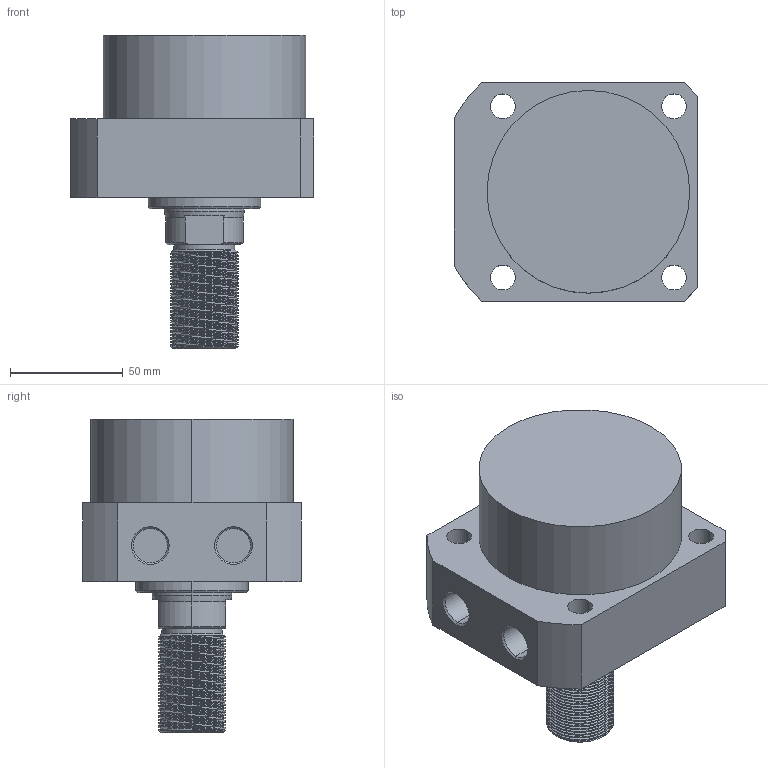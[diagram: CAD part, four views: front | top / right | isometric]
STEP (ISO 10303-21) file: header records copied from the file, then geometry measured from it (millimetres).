
FILE_DESCRIPTION (( 'STEP AP214' ), '1' );
FILE_NAME ('CLLR-090CT-(1-14).STEP', '2020-01-09T06:02:15', ( 'Windows' ), ( 'Microsoft' ), 'SwSTEP 2.0', 'SolidWorks 2015', '' );
FILE_SCHEMA (( 'AUTOMOTIVE_DESIGN' ));
Length unit declared in the file: millimetre
Products named in the file (1): CLLR-090CT-(1-14)
Bounding box: 108 x 97 x 139 mm (x, y, z)
Volume: 627520 mm3; surface area: 60306 mm2
Topology: 1 solids, 1 shells, 125 faces, 331 edges, 216 vertices
Faces by surface type: cylinder 87, plane 21, cone 15, bspline 2
Entity records: 7170 total; most frequent: CARTESIAN_POINT 4316, ORIENTED_EDGE 662, DIRECTION 531, EDGE_CURVE 331, VERTEX_POINT 216, AXIS2_PLACEMENT_3D 202, EDGE_LOOP 141, VECTOR 127
